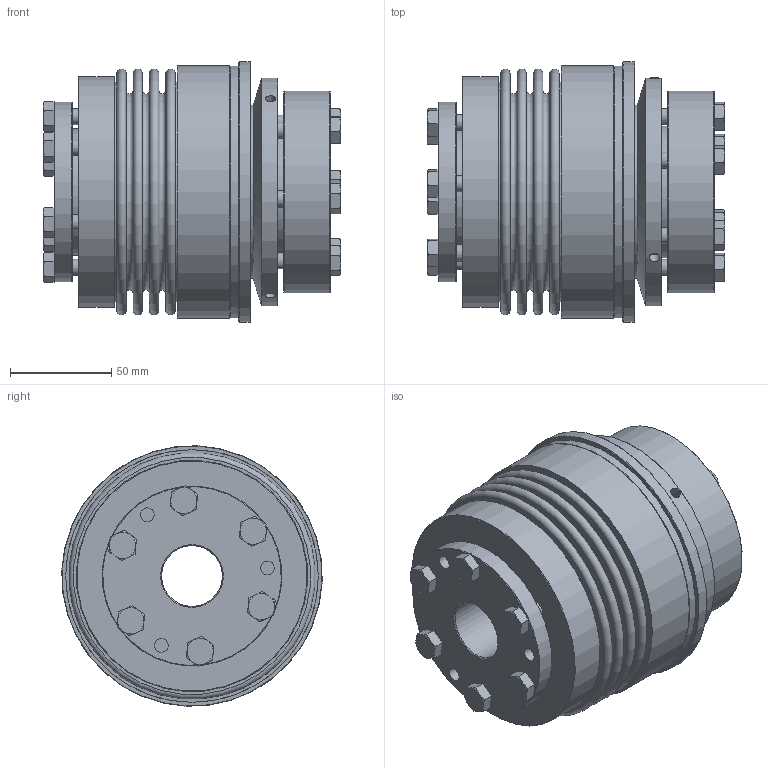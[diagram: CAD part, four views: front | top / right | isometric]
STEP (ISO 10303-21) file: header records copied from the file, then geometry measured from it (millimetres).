
FILE_DESCRIPTION( ( 'Unknown' ), '1' );
FILE_NAME( 'K:/Konstruktion/Korrigierte 3D Modelle/KBK-B-IA/KBK-BIA-500-149.stp', 'Unknown', ( 'Unknown' ), ( 'Unknown' ), 'PSStep 16.0.42', 'Unknown', ' ' );
FILE_SCHEMA( ( 'AUTOMOTIVE_DESIGN { 1 0 10303 214 1 1 1 1 }' ) );
Length unit declared in the file: millimetre
Products named in the file (18): KBK L-A-500 Grundkörper_0; Druckring L-A-500_0; Stellring 500_0; din_en_24017_m8x35_0; Druckring 500_0; A-500; BA5-500; Hex Screw GradeC_ISO_ISO 4018 - M8 x 35-NN_2; BA500_Standard_2; KB500_Standard_2; Assem1; BK500_Standard_0; Flansch BK500
Assembly tree (27 placements, depth 4):
  Assem1
    BK500_Standard_0
    Flansch BK500
    BA5-500
      Hex Screw GradeC_ISO_ISO 4018 - M8 x 35-NN_2  x6
      BA500_Standard_2
      KB500_Standard_2
    A-500
      Stellring 500_0
        Stellring 500_0
      Druckring 500_0
        Druckring 500_0
      KBK L-A-500 Grundkörper_0
        KBK L-A-500 Grundkörper_0
      din_en_24017_m8x35_0  x6
        din_en_24017_m8x35_0
      Druckring L-A-500_0
        Druckring L-A-500_0
Bounding box: 147.1 x 128.86 x 128.86 mm (x, y, z)
Volume: 972423.2 mm3; surface area: 295053 mm2
Topology: 20 solids, 20 shells, 415 faces, 868 edges, 551 vertices
Faces by surface type: plane 187, cone 127, cylinder 79, torus 22
Full cylindrical faces by diameter (mm): 3.242 x3, 5.1 x3, 5.2 x3, 6.647 x6, 6.8 x9, 8 x12, 8.5 x6, 9 x6, 11.63 x6, 30 x1, 35 x1, 62 x1, 62.6 x1, 65 x2, 65.111 x1, 80 x1, 86 x2, 89 x1, 90 x1, 93 x1, 100 x1, 104.5 x1, 107.7 x2, 108.9 x2, 113 x1, 114 x1, 114.5 x1, 125 x2, 129 x1
Entity records: 7810 total; most frequent: CARTESIAN_POINT 1313, DIRECTION 1008, ORIENTED_EDGE 630, AXIS2_PLACEMENT_3D 476, EDGE_LOOP 436, EDGE_CURVE 315, FACE_OUTER_BOUND 301, VERTEX_POINT 275
